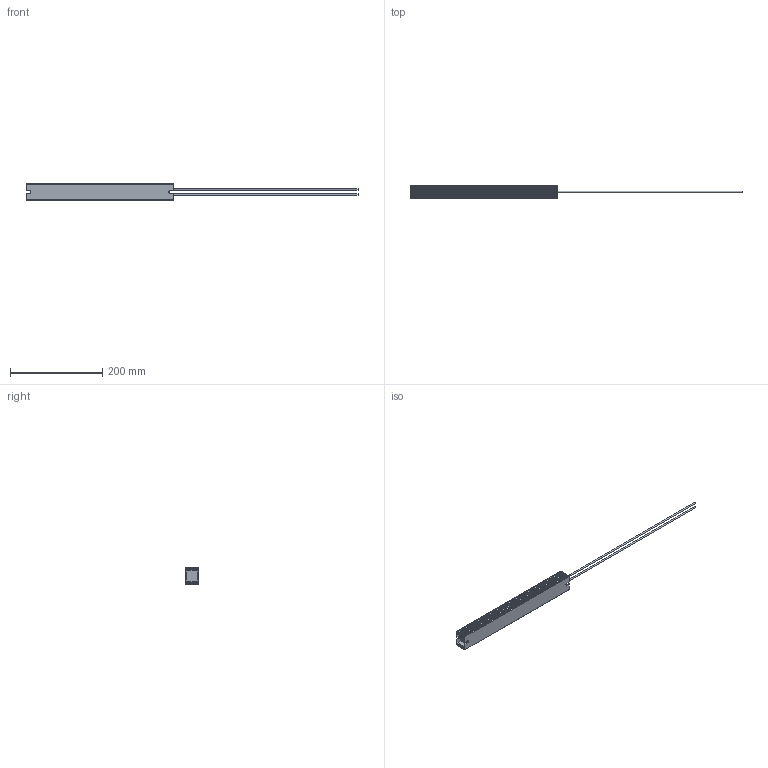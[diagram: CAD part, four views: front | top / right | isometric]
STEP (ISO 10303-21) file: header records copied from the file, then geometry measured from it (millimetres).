
FILE_DESCRIPTION(/* description */ (''),/* implementation_level */ '2;1');
FILE_NAME(/* name */ 'C:\_Vault\Dati\CATALOGO\RFZC\3D\RFZC320.stp',/* time_stamp */ '2014-03-27T17:43:27+01:00',/* author */ ('stefano'),/* organization */ (''),/* preprocessor_version */ 'ST-DEVELOPER v15.2',/* originating_system */ 'Autodesk Inventor 2014',/* authorisation */ '');
FILE_SCHEMA (('AUTOMOTIVE_DESIGN { 1 0 10303 214 3 1 1 }'));
Length unit declared in the file: millimetre
Products named in the file (1): RFZC320
Bounding box: 720 x 27 x 36 mm (x, y, z)
Volume: 267964.2 mm3; surface area: 77482.1 mm2
Topology: 1 solids, 1 shells, 97 faces, 271 edges, 178 vertices
Faces by surface type: plane 73, cylinder 24
Full cylindrical faces by diameter (mm): 3 x2
Entity records: 3233 total; most frequent: CARTESIAN_POINT 545, ORIENTED_EDGE 538, DIRECTION 521, EDGE_CURVE 269, LINE 213, VECTOR 213, VERTEX_POINT 178, AXIS2_PLACEMENT_3D 154
